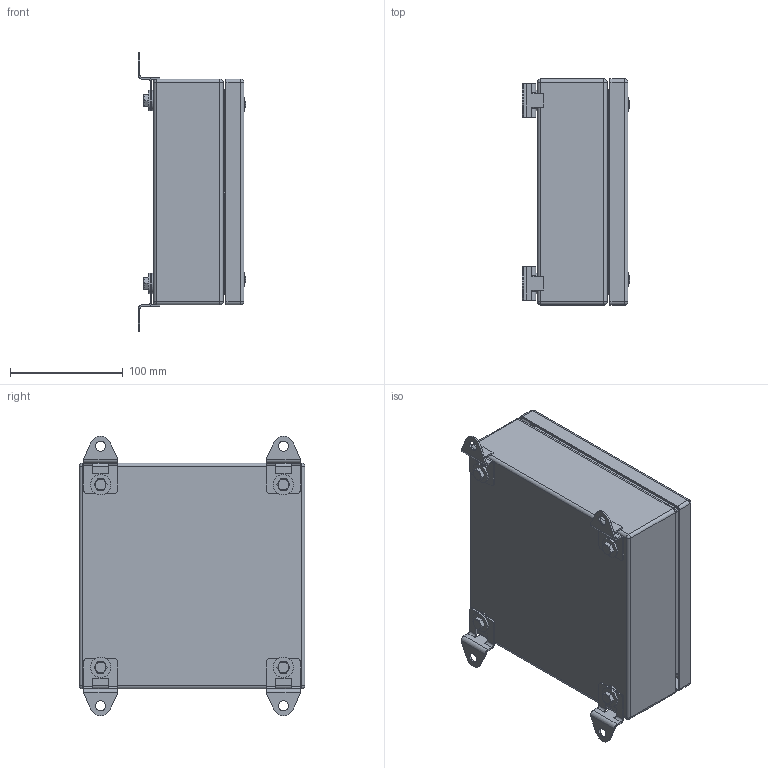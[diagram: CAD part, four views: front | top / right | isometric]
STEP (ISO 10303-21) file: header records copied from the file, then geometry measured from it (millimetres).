
FILE_DESCRIPTION(('STEP AP242'), '1');
FILE_NAME('ÊÊ Êîðîáêà êëåììíàÿ', '', ('UNSPECIFIED'), ('UNSPECIFIED'), 'C3D Converter', 'C3D Toolkit', '');
FILE_SCHEMA(('AP242_MANAGED_MODEL_BASED_3D_ENGINEERING_MIM_LF { 1 0 10303 442 1 1 4 }'));
Length unit declared in the file: millimetre
Products named in the file (22): КК; 510; 520; 521; 530; 531; 540; 541; 203-0655.61; НК.КК; 551;  202-1103.15-00530; 501
Assembly tree (53 placements, depth 4):
  КК
    510
      520
        521
        (unnamed)
        (unnamed)  x4
      530  x4
        531
        (unnamed)
    540
      541
      (unnamed)
      203-0655.61  x4
    НК.КК  x4
      551
      (unnamed)
      (unnamed)
      (unnamed)
      (unnamed)
      (unnamed)
     202-1103.15-00530  x4
    501
    (unnamed)  x4
    (unnamed)  x4
    (unnamed)  x4
    (unnamed)  x4
Bounding box: 95.19 x 200 x 248 mm (x, y, z)
Volume: 366499.1 mm3; surface area: 440241.6 mm2
Topology: 70 solids, 70 shells, 1114 faces, 2514 edges, 1532 vertices
Faces by surface type: plane 640, cylinder 294, cone 102, torus 38, sphere 24, bspline 16
Full cylindrical faces by diameter (mm): 4 x4, 4.134 x4, 4.917 x8, 5 x4, 5.2 x8, 5.8 x4, 6 x10, 6.4 x12, 6.5 x8, 6.6 x4, 6.647 x4, 8 x4, 9 x4, 11 x4, 11.5 x4, 12 x4, 18 x8
Entity records: 18527 total; most frequent: CARTESIAN_POINT 6819, DIRECTION 2073, ORIENTED_EDGE 1820, EDGE_CURVE 910, AXIS2_PLACEMENT_3D 777, VERTEX_POINT 587, EDGE_LOOP 567, LINE 519
